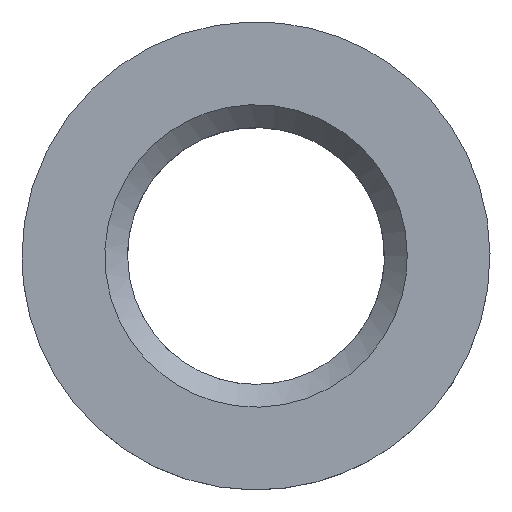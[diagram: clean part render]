
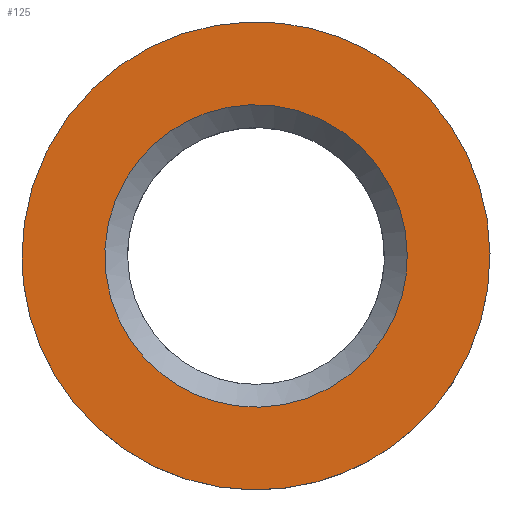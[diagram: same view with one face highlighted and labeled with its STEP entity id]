
A CAD part, top view. The second image highlights one B-rep face of the part: STEP entity #125.
In plain terms, the highlighted free-form (B-spline) face has degree [1, 1] with [2, 2] control points.
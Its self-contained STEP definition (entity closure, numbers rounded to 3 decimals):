
#92 = EDGE_CURVE('',#93,#93,#95,.T.);
#93 = VERTEX_POINT('',#94);
#94 = CARTESIAN_POINT('',(-4.1,0.,1.));
#95 = ( BOUNDED_CURVE() B_SPLINE_CURVE(2,(#96,#97,#98,#99,#100,#101,#102
),.UNSPECIFIED.,.T.,.F.) B_SPLINE_CURVE_WITH_KNOTS((1,2,2,2,2,1),(
    -2.094,0.,2.094,4.189,6.283,
8.378),.UNSPECIFIED.) CURVE() GEOMETRIC_REPRESENTATION_ITEM() 
RATIONAL_B_SPLINE_CURVE((1.,0.5,1.,0.5,1.,0.5,1.)) REPRESENTATION_ITEM(
  '') );
#96 = CARTESIAN_POINT('',(-4.1,0.,1.));
#97 = CARTESIAN_POINT('',(-4.1,7.101,1.));
#98 = CARTESIAN_POINT('',(2.05,3.551,1.));
#99 = CARTESIAN_POINT('',(8.2,0.,1.));
#100 = CARTESIAN_POINT('',(2.05,-3.551,1.));
#101 = CARTESIAN_POINT('',(-4.1,-7.101,1.));
#102 = CARTESIAN_POINT('',(-4.1,0.,1.));
#125 = ADVANCED_FACE('',(#126,#140),#143,.T.);
#126 = FACE_BOUND('',#127,.T.);
#127 = EDGE_LOOP('',(#128));
#128 = ORIENTED_EDGE('',*,*,#129,.F.);
#129 = EDGE_CURVE('',#130,#130,#132,.T.);
#130 = VERTEX_POINT('',#131);
#131 = CARTESIAN_POINT('',(2.65,0.,1.));
#132 = ( BOUNDED_CURVE() B_SPLINE_CURVE(2,(#133,#134,#135,#136,#137,#138
,#139),.UNSPECIFIED.,.T.,.F.) B_SPLINE_CURVE_WITH_KNOTS((1,2,2,2,2,1),(
    -2.094,0.,2.094,4.189,6.283,
8.378),.UNSPECIFIED.) CURVE() GEOMETRIC_REPRESENTATION_ITEM() 
RATIONAL_B_SPLINE_CURVE((1.,0.5,1.,0.5,1.,0.5,1.)) REPRESENTATION_ITEM(
  '') );
#133 = CARTESIAN_POINT('',(2.65,0.,1.));
#134 = CARTESIAN_POINT('',(2.65,4.59,1.));
#135 = CARTESIAN_POINT('',(-1.325,2.295,1.));
#136 = CARTESIAN_POINT('',(-5.3,0.,1.));
#137 = CARTESIAN_POINT('',(-1.325,-2.295,1.));
#138 = CARTESIAN_POINT('',(2.65,-4.59,1.));
#139 = CARTESIAN_POINT('',(2.65,0.,1.));
#140 = FACE_BOUND('',#141,.T.);
#141 = EDGE_LOOP('',(#142));
#142 = ORIENTED_EDGE('',*,*,#92,.F.);
#143 = B_SPLINE_SURFACE_WITH_KNOTS('',1,1,(
    (#144,#145)
    ,(#146,#147
    )),.UNSPECIFIED.,.F.,.F.,.F.,(2,2),(2,2),(0.,8.2),(-4.1,4.1),
  .PIECEWISE_BEZIER_KNOTS.);
#144 = CARTESIAN_POINT('',(-4.1,-4.1,1.));
#145 = CARTESIAN_POINT('',(-4.1,4.1,1.));
#146 = CARTESIAN_POINT('',(4.1,-4.1,1.));
#147 = CARTESIAN_POINT('',(4.1,4.1,1.));
